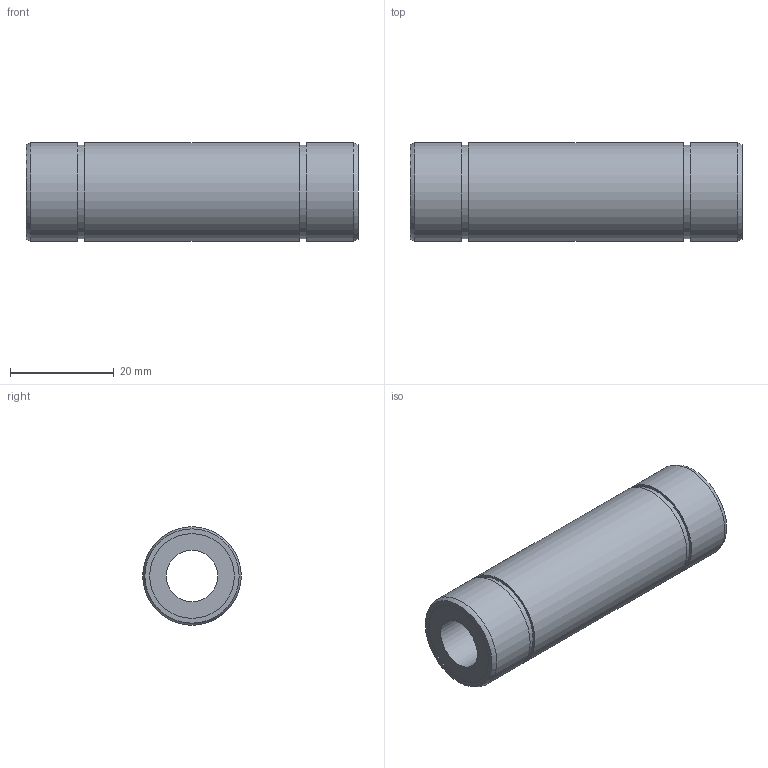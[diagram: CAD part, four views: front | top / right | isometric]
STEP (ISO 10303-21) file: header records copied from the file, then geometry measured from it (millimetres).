
FILE_DESCRIPTION((''),'2;1');
FILE_NAME('D:\製品 (図面)\カタログ用3D\メンテナンスフリー関連\STEP形式\LD-MF\LD10MF.stp','2010-06-01T15:35:14',('Tsuchiya'),(''),'Autodesk Inventor 10','Autodesk Inventor 10','');
FILE_SCHEMA(('AUTOMOTIVE_DESIGN { 1 0 10303 214 1 1 1 1 }'));
Length unit declared in the file: millimetre
Products named in the file (1): LD10MF
Bounding box: 64 x 19 x 19 mm (x, y, z)
Volume: 12998.7 mm3; surface area: 6313.8 mm2
Topology: 1 solids, 1 shells, 18 faces, 28 edges, 18 vertices
Faces by surface type: plane 8, cylinder 8, torus 2
Full cylindrical faces by diameter (mm): 10 x1, 16.3 x2, 18 x2, 19 x3
Entity records: 391 total; most frequent: DIRECTION 74, CARTESIAN_POINT 55, AXIS2_PLACEMENT_3D 37, ORIENTED_EDGE 36, EDGE_LOOP 36, VERTEX_POINT 18, CIRCLE 18, EDGE_CURVE 18
